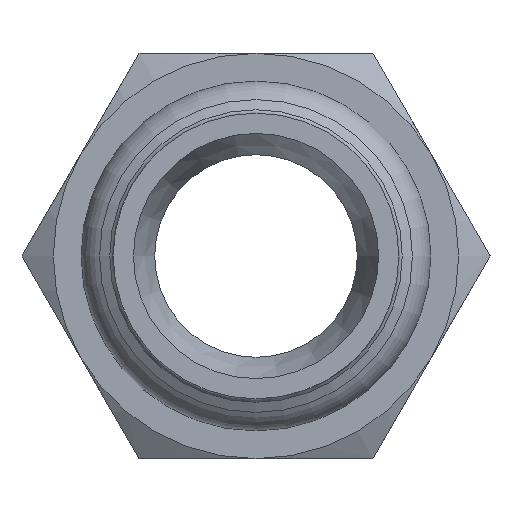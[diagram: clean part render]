
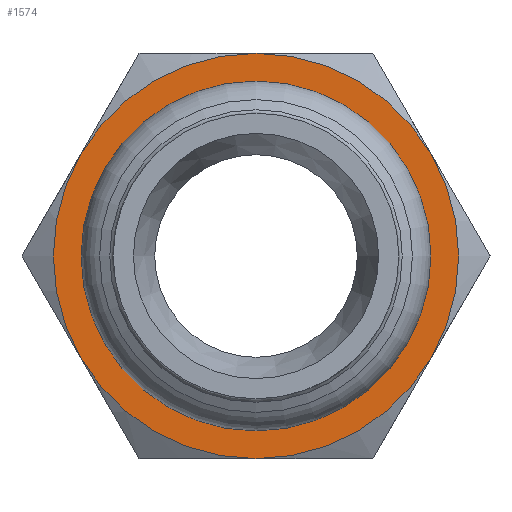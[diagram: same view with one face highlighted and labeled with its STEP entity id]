
A CAD part, left-side view. The second image highlights one B-rep face of the part: STEP entity #1574.
In plain terms, the highlighted planar face has unit normal (-1, 0, 0) as drawn and (0, 0, 1) by its records, which use the part's own axes.
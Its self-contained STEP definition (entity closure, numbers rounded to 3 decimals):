
#1012=CARTESIAN_POINT('',(-12.99,7.5,-6.));
#1013=VERTEX_POINT('',#1012);
#1027=CARTESIAN_POINT('',(-12.99,-7.5,-6.));
#1028=VERTEX_POINT('',#1027);
#1042=CARTESIAN_POINT('',(0.0,0.0,-6.));
#1043=DIRECTION('',(0.0,0.0,1.0));
#1044=DIRECTION('',(1.0,0.0,0.0));
#1045=AXIS2_PLACEMENT_3D('',#1042,#1043,#1044);
#1046=CIRCLE('',#1045,15.0);
#1047=EDGE_CURVE('',#1013,#1028,#1046,.T.);
#1059=CARTESIAN_POINT('',(0.,15.,-6.));
#1060=VERTEX_POINT('',#1059);
#1087=CARTESIAN_POINT('',(0.0,0.0,-6.));
#1088=DIRECTION('',(0.0,0.0,1.0));
#1089=DIRECTION('',(1.0,0.0,0.0));
#1090=AXIS2_PLACEMENT_3D('',#1087,#1088,#1089);
#1091=CIRCLE('',#1090,15.0);
#1092=EDGE_CURVE('',#1060,#1013,#1091,.T.);
#1104=CARTESIAN_POINT('',(12.99,7.5,-6.));
#1105=VERTEX_POINT('',#1104);
#1132=CARTESIAN_POINT('',(0.0,0.0,-6.));
#1133=DIRECTION('',(0.0,0.0,1.0));
#1134=DIRECTION('',(1.0,0.0,0.0));
#1135=AXIS2_PLACEMENT_3D('',#1132,#1133,#1134);
#1136=CIRCLE('',#1135,15.0);
#1137=EDGE_CURVE('',#1105,#1060,#1136,.T.);
#1162=CARTESIAN_POINT('',(12.99,-7.5,-6.));
#1163=VERTEX_POINT('',#1162);
#1164=CARTESIAN_POINT('',(0.0,0.0,-6.));
#1165=DIRECTION('',(0.0,0.0,1.0));
#1166=DIRECTION('',(1.0,0.0,0.0));
#1167=AXIS2_PLACEMENT_3D('',#1164,#1165,#1166);
#1168=CIRCLE('',#1167,15.0);
#1169=EDGE_CURVE('',#1163,#1105,#1168,.T.);
#1207=CARTESIAN_POINT('',(0.0,-15.0,-6.));
#1208=VERTEX_POINT('',#1207);
#1209=CARTESIAN_POINT('',(0.0,0.0,-6.));
#1210=DIRECTION('',(0.0,0.0,1.0));
#1211=DIRECTION('',(1.0,0.0,0.0));
#1212=AXIS2_PLACEMENT_3D('',#1209,#1210,#1211);
#1213=CIRCLE('',#1212,15.0);
#1214=EDGE_CURVE('',#1208,#1163,#1213,.T.);
#1252=CARTESIAN_POINT('',(0.0,0.0,-6.));
#1253=DIRECTION('',(0.0,0.0,1.0));
#1254=DIRECTION('',(1.0,0.0,0.0));
#1255=AXIS2_PLACEMENT_3D('',#1252,#1253,#1254);
#1256=CIRCLE('',#1255,15.0);
#1257=EDGE_CURVE('',#1028,#1208,#1256,.T.);
#1515=CARTESIAN_POINT('',(11.0,0.,-6.));
#1516=VERTEX_POINT('',#1515);
#1517=CARTESIAN_POINT('',(0.0,0.0,-6.));
#1518=DIRECTION('',(0.0,0.0,1.0));
#1519=DIRECTION('',(-1.0,0.0,0.0));
#1520=AXIS2_PLACEMENT_3D('',#1517,#1518,#1519);
#1521=CIRCLE('',#1520,11.0);
#1522=EDGE_CURVE('',#1516,#1516,#1521,.T.);
#1558=CARTESIAN_POINT('',(0.,0.,-6.));
#1559=DIRECTION('',(0.0,0.0,1.0));
#1560=DIRECTION('',(1.0,0.0,0.0));
#1561=AXIS2_PLACEMENT_3D('',#1558,#1559,#1560);
#1562=PLANE('',#1561);
#1563=ORIENTED_EDGE('',*,*,#1257,.T.);
#1564=ORIENTED_EDGE('',*,*,#1214,.T.);
#1565=ORIENTED_EDGE('',*,*,#1169,.T.);
#1566=ORIENTED_EDGE('',*,*,#1137,.T.);
#1567=ORIENTED_EDGE('',*,*,#1092,.T.);
#1568=ORIENTED_EDGE('',*,*,#1047,.T.);
#1569=EDGE_LOOP('',(#1563,#1564,#1565,#1566,#1567,#1568));
#1570=FACE_OUTER_BOUND('',#1569,.T.);
#1571=ORIENTED_EDGE('',*,*,#1522,.F.);
#1572=EDGE_LOOP('',(#1571));
#1573=FACE_BOUND('',#1572,.T.);
#1574=ADVANCED_FACE('',(#1570,#1573),#1562,.T.);
